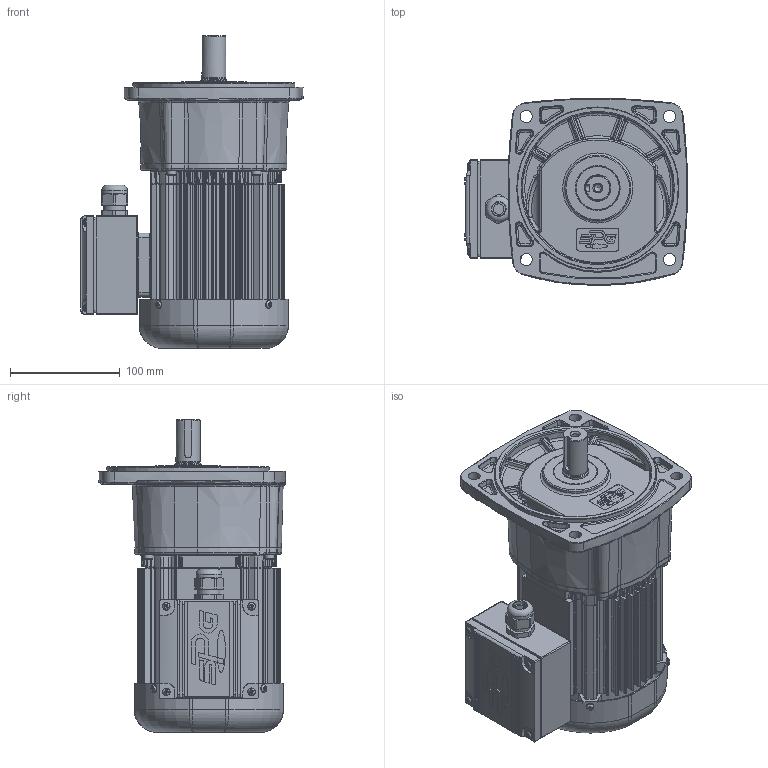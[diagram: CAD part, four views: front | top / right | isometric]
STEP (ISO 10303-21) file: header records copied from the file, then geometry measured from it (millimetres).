
FILE_DESCRIPTION(/* description */ (''),/* implementation_level */ '2;1');
FILE_NAME(/* name */ 'Z:\동력 3D 파일\PAF22-(30~100)-MA(B)020[ ]L.stp',/* time_stamp */ '2021-11-08T14:48:06+09:00',/* author */ ('jaebok'),/* organization */ (''),/* preprocessor_version */ 'ST-DEVELOPER v18.1',/* originating_system */ 'Autodesk Inventor 2022',/* authorisation */ '');
FILE_SCHEMA (('AUTOMOTIVE_DESIGN { 1 0 10303 214 3 1 1 }'));
Products named in the file (1): 부품3
Bounding box: 203.28 x 170.78 x 285.5 mm (x, y, z)
Volume: 1254967.3 mm3; surface area: 497684 mm2
Topology: 2 solids, 36 shells, 3713 faces, 9363 edges, 5591 vertices
Faces by surface type: plane 1091, bspline 978, cylinder 908, torus 388, cone 266, sphere 82
Full cylindrical faces by diameter (mm): 2 x1, 3.242 x9, 3.25 x1, 3.6 x4, 4 x21, 4.2 x4, 5 x21, 5.386 x4, 5.5 x4, 6 x8, 6.647 x1, 7 x12, 8 x1, 8.5 x4, 10 x1, 12.5 x1, 13 x1, 14 x1, 15 x1, 19 x1, 20 x3, 21 x1, 21.96 x1, 22 x1, 22.3 x1, 23.6 x1, 24 x3, 25 x1, 26 x1, 27 x1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
Entity records: 151584 total; most frequent: CARTESIAN_POINT 65109, ORIENTED_EDGE 18258, DIRECTION 15865, EDGE_CURVE 9129, AXIS2_PLACEMENT_3D 6462, VERTEX_POINT 5588, EDGE_LOOP 3923, FACE_OUTER_BOUND 3713
